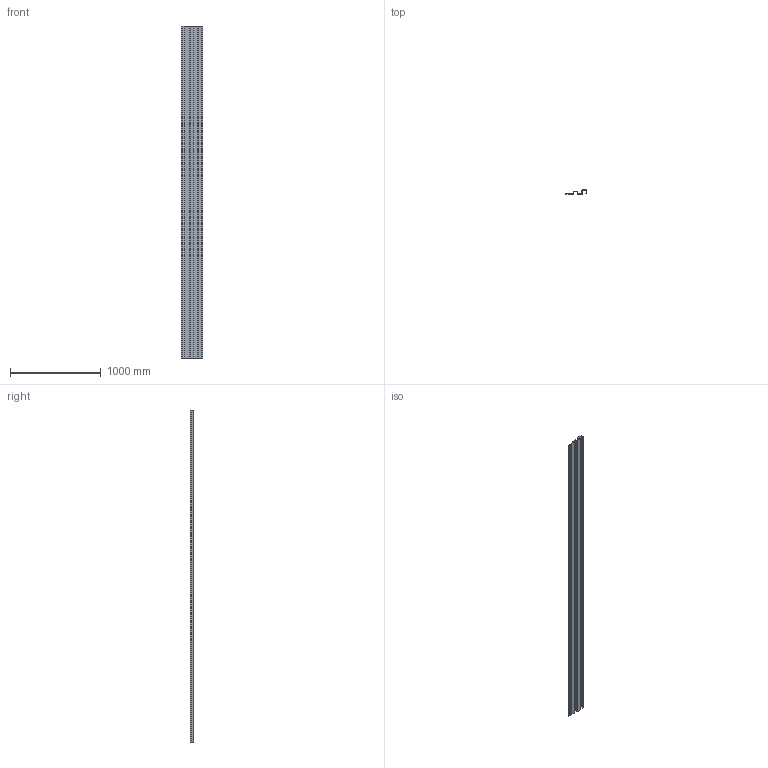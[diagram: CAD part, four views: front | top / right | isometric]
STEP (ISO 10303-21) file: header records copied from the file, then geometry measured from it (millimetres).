
FILE_DESCRIPTION(/* description */ (''),/* implementation_level */ '2;1');
FILE_NAME(/* name */ 'SPC1.3.stp',/* time_stamp */ '2025-02-27T13:40:07-05:00',/* author */ ('samuel.gauthier'),/* organization */ (''),/* preprocessor_version */ 'ST-DEVELOPER v20',/* originating_system */ 'Autodesk Inventor 2025',/* authorisation */ '');
FILE_SCHEMA (('AUTOMOTIVE_DESIGN { 1 0 10303 214 3 1 1 }'));
Length unit declared in the file: inch
Products named in the file (1): SPC1.3
Bounding box: 233.5 x 38.15 x 3657.6 mm (x, y, z)
Volume: 809575.2 mm3; surface area: 2970028.5 mm2
Topology: 1 solids, 1 shells, 52 faces, 150 edges, 100 vertices
Faces by surface type: plane 32, cylinder 20
Entity records: 1759 total; most frequent: CARTESIAN_POINT 303, ORIENTED_EDGE 300, DIRECTION 296, EDGE_CURVE 150, LINE 110, VECTOR 110, VERTEX_POINT 100, AXIS2_PLACEMENT_3D 93
